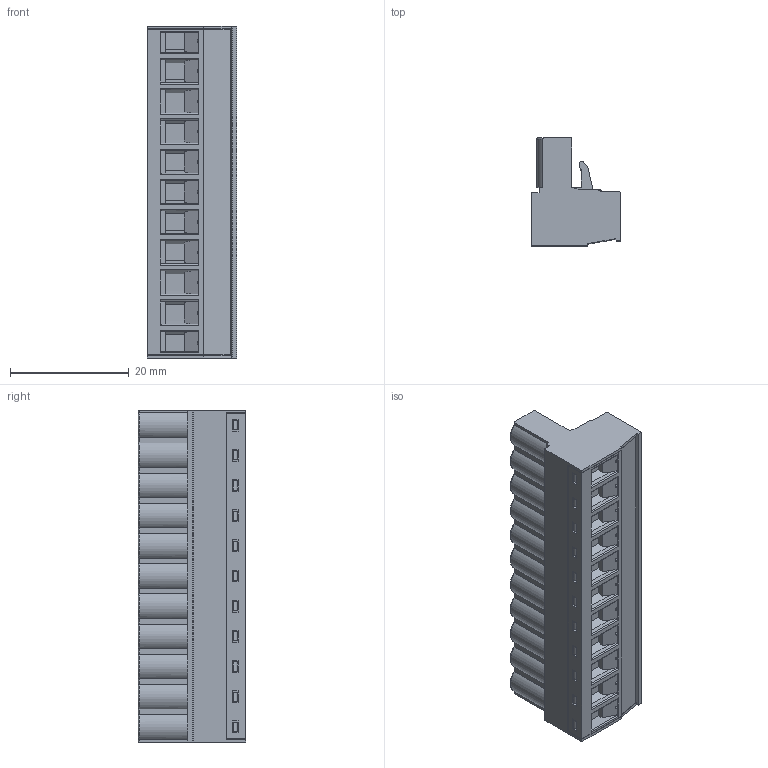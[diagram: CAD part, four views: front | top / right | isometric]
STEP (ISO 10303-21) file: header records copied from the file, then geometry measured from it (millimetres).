
FILE_DESCRIPTION (( 'STEP AP203' ), '1' );
FILE_NAME ('BR8F1-11.STEP', '2020-03-04T01:46:58', ( '' ), ( '' ), 'SwSTEP 2.0', 'SolidWorks 2019', '' );
FILE_SCHEMA (( 'CONFIG_CONTROL_DESIGN' ));
Length unit declared in the file: millimetre
Products named in the file (1): BR8F1-11
Bounding box: 15.05 x 18.1 x 55.88 mm (x, y, z)
Volume: 8885.3 mm3; surface area: 7433.9 mm2
Topology: 1 solids, 1 shells, 1441 faces, 3835 edges, 2462 vertices
Faces by surface type: plane 889, cylinder 354, cone 88, torus 66, sphere 44
Entity records: 45492 total; most frequent: CARTESIAN_POINT 9181, ORIENTED_EDGE 7670, DIRECTION 7367, EDGE_CURVE 3835, VECTOR 2787, LINE 2787, VERTEX_POINT 2462, AXIS2_PLACEMENT_3D 2290
